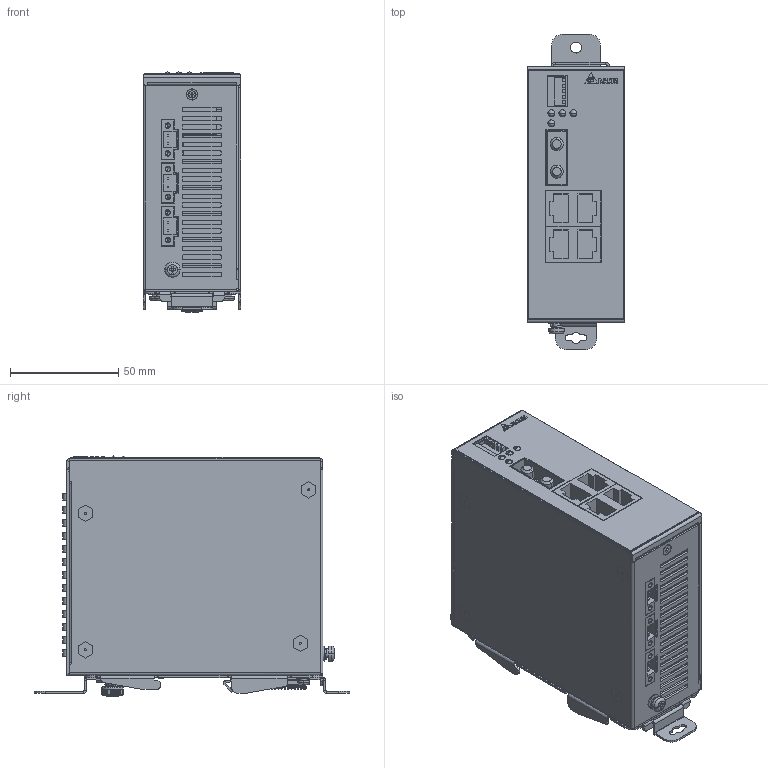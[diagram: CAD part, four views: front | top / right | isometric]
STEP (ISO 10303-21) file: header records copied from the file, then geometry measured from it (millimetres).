
FILE_DESCRIPTION((''),'2;1');
FILE_NAME('DVS-005W01-MC01_ASM','2014-12-08T',('ANDREW.AS.SUN'),(''),'PRO/ENGINEER BY PARAMETRIC TECHNOLOGY CORPORATION, 2010280','PRO/ENGINEER BY PARAMETRIC TECHNOLOGY CORPORATION, 2010280','');
FILE_SCHEMA(('CONFIG_CONTROL_DESIGN'));
Products named in the file (26): BASE-8P; COVER-8P; PANEL-8P; PCB-M-8P; DIN-SWITCH-5PIN; 1X3_G-G; 1X1_LED; OPT-155B; TB293; 307229417C; PCB-M-16P_ASM; NAMEPLATE; 3105460500; LOGO-2; STUD_M3_0-S; BACK_PLATE_2; SCREW_M4; SNAP; SPRING; SNAP_2; 46-111-501-1_20100903_; SNAP2_ASM; 3100320300-SCREW; MYLAY; STUD_M3_0; DVS-005W01-MC01_ASM
Assembly tree (40 placements, depth 3):
  DVS-005W01-MC01_ASM
    BASE-8P
    COVER-8P
    PANEL-8P
    PCB-M-16P_ASM
      PCB-M-8P
      DIN-SWITCH-5PIN
      1X3_G-G
      1X1_LED
      OPT-155B
      TB293  x3
      307229417C  x2
    NAMEPLATE
    3105460500  x8
    LOGO-2
    STUD_M3_0-S  x2
    BACK_PLATE_2
    SCREW_M4
    SNAP
    SPRING
    SNAP2_ASM
      SNAP_2
      46-111-501-1_20100903_
    3100320300-SCREW  x4
    MYLAY
    STUD_M3_0  x2
Bounding box: 45 x 145.3 x 110.62 mm (x, y, z)
Volume: 107277.5 mm3; surface area: 186952.8 mm2
Topology: 44 solids, 55 shells, 3290 faces, 8313 edges, 5199 vertices
Faces by surface type: plane 1716, cylinder 1118, bspline 233, cone 114, extrusion 53, torus 48, sphere 8
Entity records: 93050 total; most frequent: CARTESIAN_POINT 31404, ORIENTED_EDGE 12749, DIRECTION 12561, EDGE_CURVE 6404, AXIS2_PLACEMENT_3D 4275, VECTOR 4011, VERTEX_POINT 3995, LINE 3958
